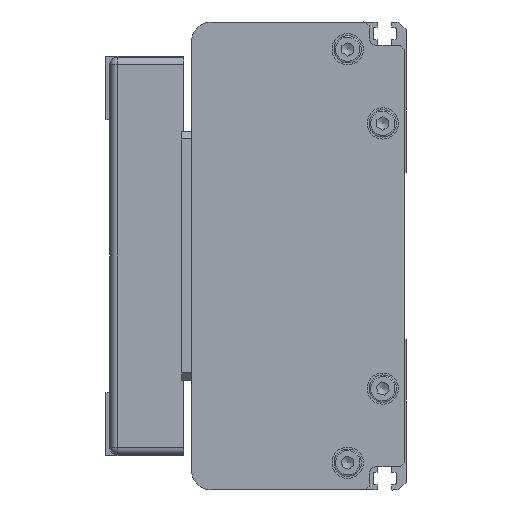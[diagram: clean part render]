
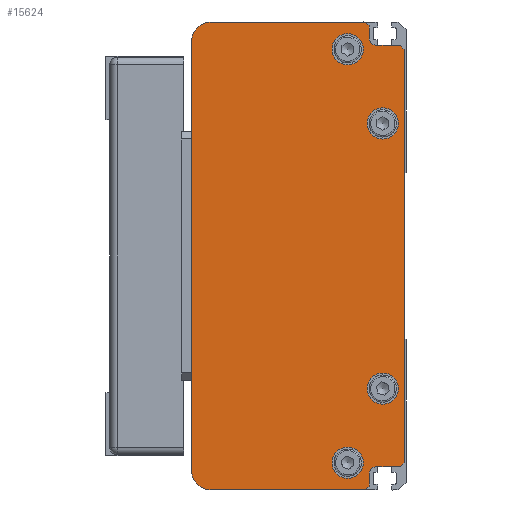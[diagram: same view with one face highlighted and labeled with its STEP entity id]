
A CAD part, left-side view. The second image highlights one B-rep face of the part: STEP entity #15624.
In plain terms, the highlighted planar face has unit normal (-1, 0, 0) as drawn and (0, 0, -1) by its records, which use the part's own axes.
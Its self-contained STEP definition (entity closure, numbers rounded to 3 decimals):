
#822=FACE_BOUND('',#2585,.T.);
#823=FACE_BOUND('',#2586,.T.);
#824=FACE_BOUND('',#2587,.T.);
#825=FACE_BOUND('',#2588,.T.);
#1132=CIRCLE('',#16748,5.);
#1133=CIRCLE('',#16750,5.);
#1134=CIRCLE('',#16751,2.);
#1135=CIRCLE('',#16752,2.);
#1136=CIRCLE('',#16753,4.);
#1137=CIRCLE('',#16754,4.);
#1138=CIRCLE('',#16755,4.);
#1139=CIRCLE('',#16756,4.);
#1560=FACE_OUTER_BOUND('',#2584,.T.);
#2584=EDGE_LOOP('',(#10754,#10755,#10756,#10757,#10758,#10759,#10760,#10761,
#10762,#10763,#10764,#10765,#10766,#10767,#10768,#10769));
#2585=EDGE_LOOP('',(#10770));
#2586=EDGE_LOOP('',(#10771));
#2587=EDGE_LOOP('',(#10772));
#2588=EDGE_LOOP('',(#10773));
#3825=LINE('',#22382,#5321);
#3826=LINE('',#22384,#5322);
#3827=LINE('',#22387,#5323);
#3828=LINE('',#22389,#5324);
#3829=LINE('',#22391,#5325);
#3830=LINE('',#22393,#5326);
#3831=LINE('',#22397,#5327);
#3832=LINE('',#22399,#5328);
#3833=LINE('',#22401,#5329);
#3834=LINE('',#22403,#5330);
#3835=LINE('',#22405,#5331);
#3836=LINE('',#22408,#5332);
#5321=VECTOR('',#18260,1.414);
#5322=VECTOR('',#18261,39.5);
#5323=VECTOR('',#18264,110.);
#5324=VECTOR('',#18265,39.5);
#5325=VECTOR('',#18266,1.414);
#5326=VECTOR('',#18267,3.);
#5327=VECTOR('',#18270,6.);
#5328=VECTOR('',#18271,1.414);
#5329=VECTOR('',#18272,106.);
#5330=VECTOR('',#18273,1.414);
#5331=VECTOR('',#18274,6.);
#5332=VECTOR('',#18277,3.);
#6847=VERTEX_POINT('',#22374);
#6848=VERTEX_POINT('',#22376);
#6849=VERTEX_POINT('',#22380);
#6850=VERTEX_POINT('',#22381);
#6851=VERTEX_POINT('',#22383);
#6852=VERTEX_POINT('',#22385);
#6853=VERTEX_POINT('',#22388);
#6854=VERTEX_POINT('',#22390);
#6855=VERTEX_POINT('',#22392);
#6856=VERTEX_POINT('',#22394);
#6857=VERTEX_POINT('',#22396);
#6858=VERTEX_POINT('',#22398);
#6859=VERTEX_POINT('',#22400);
#6860=VERTEX_POINT('',#22402);
#6861=VERTEX_POINT('',#22404);
#6862=VERTEX_POINT('',#22406);
#6863=VERTEX_POINT('',#22409);
#6864=VERTEX_POINT('',#22411);
#6865=VERTEX_POINT('',#22413);
#6866=VERTEX_POINT('',#22415);
#8400=EDGE_CURVE('',#6847,#6848,#1132,.T.);
#8402=EDGE_CURVE('',#6849,#6850,#3825,.T.);
#8403=EDGE_CURVE('',#6849,#6851,#3826,.T.);
#8404=EDGE_CURVE('',#6852,#6851,#1133,.T.);
#8405=EDGE_CURVE('',#6852,#6848,#3827,.T.);
#8406=EDGE_CURVE('',#6847,#6853,#3828,.T.);
#8407=EDGE_CURVE('',#6854,#6853,#3829,.T.);
#8408=EDGE_CURVE('',#6854,#6855,#3830,.T.);
#8409=EDGE_CURVE('',#6855,#6856,#1134,.T.);
#8410=EDGE_CURVE('',#6856,#6857,#3831,.T.);
#8411=EDGE_CURVE('',#6858,#6857,#3832,.T.);
#8412=EDGE_CURVE('',#6858,#6859,#3833,.T.);
#8413=EDGE_CURVE('',#6860,#6859,#3834,.T.);
#8414=EDGE_CURVE('',#6860,#6861,#3835,.T.);
#8415=EDGE_CURVE('',#6861,#6862,#1135,.T.);
#8416=EDGE_CURVE('',#6862,#6850,#3836,.T.);
#8417=EDGE_CURVE('',#6863,#6863,#1136,.T.);
#8418=EDGE_CURVE('',#6864,#6864,#1137,.T.);
#8419=EDGE_CURVE('',#6865,#6865,#1138,.T.);
#8420=EDGE_CURVE('',#6866,#6866,#1139,.T.);
#10754=ORIENTED_EDGE('',*,*,#8402,.F.);
#10755=ORIENTED_EDGE('',*,*,#8403,.T.);
#10756=ORIENTED_EDGE('',*,*,#8404,.F.);
#10757=ORIENTED_EDGE('',*,*,#8405,.T.);
#10758=ORIENTED_EDGE('',*,*,#8400,.F.);
#10759=ORIENTED_EDGE('',*,*,#8406,.T.);
#10760=ORIENTED_EDGE('',*,*,#8407,.F.);
#10761=ORIENTED_EDGE('',*,*,#8408,.T.);
#10762=ORIENTED_EDGE('',*,*,#8409,.T.);
#10763=ORIENTED_EDGE('',*,*,#8410,.T.);
#10764=ORIENTED_EDGE('',*,*,#8411,.F.);
#10765=ORIENTED_EDGE('',*,*,#8412,.T.);
#10766=ORIENTED_EDGE('',*,*,#8413,.F.);
#10767=ORIENTED_EDGE('',*,*,#8414,.T.);
#10768=ORIENTED_EDGE('',*,*,#8415,.T.);
#10769=ORIENTED_EDGE('',*,*,#8416,.T.);
#10770=ORIENTED_EDGE('',*,*,#8417,.T.);
#10771=ORIENTED_EDGE('',*,*,#8418,.T.);
#10772=ORIENTED_EDGE('',*,*,#8419,.T.);
#10773=ORIENTED_EDGE('',*,*,#8420,.T.);
#15004=PLANE('',#16749);
#15624=ADVANCED_FACE('',(#1560,#822,#823,#824,#825),#15004,.F.);
#16748=AXIS2_PLACEMENT_3D('',#22377,#18255,#18256);
#16749=AXIS2_PLACEMENT_3D('',#22379,#18258,#18259);
#16750=AXIS2_PLACEMENT_3D('',#22386,#18262,#18263);
#16751=AXIS2_PLACEMENT_3D('',#22395,#18268,#18269);
#16752=AXIS2_PLACEMENT_3D('',#22407,#18275,#18276);
#16753=AXIS2_PLACEMENT_3D('',#22410,#18278,#18279);
#16754=AXIS2_PLACEMENT_3D('',#22412,#18280,#18281);
#16755=AXIS2_PLACEMENT_3D('',#22414,#18282,#18283);
#16756=AXIS2_PLACEMENT_3D('',#22416,#18284,#18285);
#18255=DIRECTION('center_axis',(0.,0.,
1.));
#18256=DIRECTION('ref_axis',(0.707,0.707,0.));
#18258=DIRECTION('center_axis',(0.,0.,
1.));
#18259=DIRECTION('ref_axis',(-1.,-0.018,0.));
#18260=DIRECTION('',(0.707,-0.707,0.));
#18261=DIRECTION('',(0.,1.,0.));
#18262=DIRECTION('center_axis',(0.,0.,
1.));
#18263=DIRECTION('ref_axis',(-0.707,0.707,0.));
#18264=DIRECTION('',(1.,0.,0.));
#18265=DIRECTION('',(0.,-1.,0.));
#18266=DIRECTION('',(0.707,0.707,0.));
#18267=DIRECTION('',(-1.,0.,0.));
#18268=DIRECTION('center_axis',(0.,0.,
1.));
#18269=DIRECTION('ref_axis',(0.,-1.,0.));
#18270=DIRECTION('',(0.,-1.,0.));
#18271=DIRECTION('',(0.707,0.707,0.));
#18272=DIRECTION('',(-1.,0.,0.));
#18273=DIRECTION('',(0.707,-0.707,0.));
#18274=DIRECTION('',(0.,1.,0.));
#18275=DIRECTION('center_axis',(0.,0.,
1.));
#18276=DIRECTION('ref_axis',(1.,0.,0.));
#18277=DIRECTION('',(-1.,0.,0.));
#18278=DIRECTION('center_axis',(0.,0.,
1.));
#18279=DIRECTION('ref_axis',(0.,1.,0.));
#18280=DIRECTION('center_axis',(0.,0.,
1.));
#18281=DIRECTION('ref_axis',(0.,1.,0.));
#18282=DIRECTION('center_axis',(0.,0.,
1.));
#18283=DIRECTION('ref_axis',(0.,1.,0.));
#18284=DIRECTION('center_axis',(0.,0.,
1.));
#18285=DIRECTION('ref_axis',(0.,1.,0.));
#22374=CARTESIAN_POINT('',(124.75,50.75,-592.5));
#22376=CARTESIAN_POINT('',(119.75,55.75,-592.5));
#22377=CARTESIAN_POINT('Origin',(119.75,50.75,-592.5));
#22379=CARTESIAN_POINT('Origin',(64.75,28.5,-592.5));
#22380=CARTESIAN_POINT('',(4.75,11.25,-592.5));
#22381=CARTESIAN_POINT('',(5.75,10.25,-592.5));
#22382=CARTESIAN_POINT('',(4.75,11.25,-592.5));
#22383=CARTESIAN_POINT('',(4.75,50.75,-592.5));
#22384=CARTESIAN_POINT('',(4.75,11.25,-592.5));
#22385=CARTESIAN_POINT('',(9.75,55.75,-592.5));
#22386=CARTESIAN_POINT('Origin',(9.75,50.75,-592.5));
#22387=CARTESIAN_POINT('',(9.75,55.75,-592.5));
#22388=CARTESIAN_POINT('',(124.75,11.25,-592.5));
#22389=CARTESIAN_POINT('',(124.75,50.75,-592.5));
#22390=CARTESIAN_POINT('',(123.75,10.25,-592.5));
#22391=CARTESIAN_POINT('',(123.75,10.25,-592.5));
#22392=CARTESIAN_POINT('',(120.75,10.25,-592.5));
#22393=CARTESIAN_POINT('',(123.75,10.25,-592.5));
#22394=CARTESIAN_POINT('',(118.75,8.25,-592.5));
#22395=CARTESIAN_POINT('Origin',(120.75,8.25,-592.5));
#22396=CARTESIAN_POINT('',(118.75,2.25,-592.5));
#22397=CARTESIAN_POINT('',(118.75,8.25,-592.5));
#22398=CARTESIAN_POINT('',(117.75,1.25,-592.5));
#22399=CARTESIAN_POINT('',(117.75,1.25,-592.5));
#22400=CARTESIAN_POINT('',(11.75,1.25,-592.5));
#22401=CARTESIAN_POINT('',(117.75,1.25,-592.5));
#22402=CARTESIAN_POINT('',(10.75,2.25,-592.5));
#22403=CARTESIAN_POINT('',(10.75,2.25,-592.5));
#22404=CARTESIAN_POINT('',(10.75,8.25,-592.5));
#22405=CARTESIAN_POINT('',(10.75,2.25,-592.5));
#22406=CARTESIAN_POINT('',(8.75,10.25,-592.5));
#22407=CARTESIAN_POINT('Origin',(8.75,8.25,-592.5));
#22408=CARTESIAN_POINT('',(8.75,10.25,-592.5));
#22409=CARTESIAN_POINT('',(30.75,10.75,-592.5));
#22410=CARTESIAN_POINT('Origin',(30.75,6.75,-592.5));
#22411=CARTESIAN_POINT('',(98.75,10.75,-592.5));
#22412=CARTESIAN_POINT('Origin',(98.75,6.75,-592.5));
#22413=CARTESIAN_POINT('',(11.75,19.75,-592.5));
#22414=CARTESIAN_POINT('Origin',(11.75,15.75,-592.5));
#22415=CARTESIAN_POINT('',(117.75,19.75,-592.5));
#22416=CARTESIAN_POINT('Origin',(117.75,15.75,-592.5));
